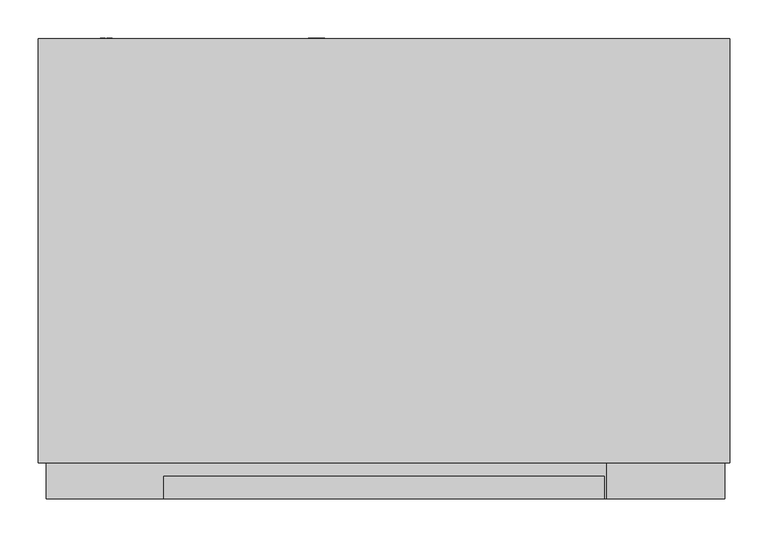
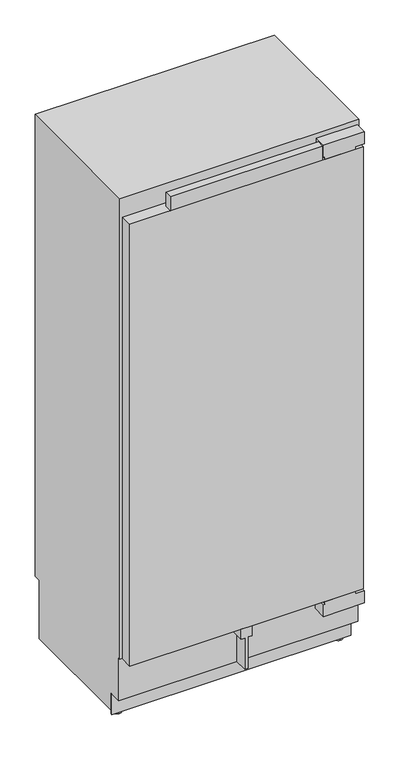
"""IFC4 building model written with IfcOpenShell, lengths in millimetres: proxy geometry, 11503360_USA_F2902Vi : 37290201_USA_11503360_F2902Vi."""

from ifc_helpers import new_model, si_unit, point, frame, frame_2d, origin, place, context, project, spatial, polyline, circle_curve, trimmed, segment, composite_curve, outline, extrude, source, transform, mapped, element, save
from ifc_brep_helpers import plane_surface, cylinder_surface, advanced_brep


def specialty_equipment_eeb248f6(model_context):
    return source(origin(), model_context, "Body", "SolidModel", [
        extrude(outline(polyline([(-443.0, 47.0), (443.0, 47.0), (443.0, 0.0), (-443.0, 0.0), (-443.0, 47.0)])), frame((0.0, 0.0, 265.0), z_axis=(0.0, 0.0, 1.0), x_axis=(1.0, 0.0, 0.0)), (0.0, 0.0, 1.0), 1771.0),
        extrude(outline(polyline([(-289.0, 29.0), (289.0, 29.0), (289.0, 0.0), (-289.0, 0.0), (-289.0, 29.0)])), frame((0.0, 0.0, 2036.0), z_axis=(0.0, 0.0, 1.0), x_axis=(1.0, 0.0, 0.0)), (0.0, 0.0, 1.0), 56.0),
        extrude(outline(polyline([(265.0, 21.0), (265.0, 0.0), (265.0, -21.0), (224.0, -21.0), (224.0, -6.5), (99.0, -6.5), (99.0, 0.0), (99.0, 6.5), (224.0, 6.5), (224.0, 21.0), (265.0, 21.0)])), frame((0.0, 0.0, 0.0), z_axis=(0.0, 1.0, 0.0), x_axis=(0.0, 0.0, 1.0)), (0.0, 0.0, 1.0), 54.0),
        extrude(outline(polyline([(519.0, 1998.0), (519.0, 1791.0), (450.0, 1791.0), (422.0, 1867.0), (201.7448904, 1867.0), (157.0, 1939.0), (87.0, 1949.0), (87.0, 1998.0), (519.0, 1998.0)])), frame((-408.0, 0.0, 0.0), z_axis=(1.0, 0.0, 0.0), x_axis=(0.0, 1.0, 0.0)), (0.0, 0.0, 1.0), 816.0),
        extrude(outline(polyline([(196.9886114, 1875.0), (195.809433, 1875.0), (158.6921935, 1934.4), (159.8713719, 1934.4), (196.9886114, 1875.0)])), frame((-69.0, 0.0, 0.0), z_axis=(1.0, 0.0, 0.0), x_axis=(0.0, 1.0, 0.0)), (0.0, 0.0, 1.0), 138.0),
        extrude(outline(polyline([(46.0510837, -87.101717), (37.4134902, -89.1745179), (46.0453554, -91.6868463), (46.0453554, -93.5601414), (37.4089549, -96.0799633), (46.0493903, -98.1581876), (46.0493903, -99.4649805), (36.0005458, -96.7156324), (36.0005458, -95.372208), (44.8261022, -92.6342221), (35.9987467, -90.0620509), (35.9987287, -88.5451466), (46.0510837, -85.800191), (46.0510837, -87.101717)])), frame((0.0, 604.0, 0.0), z_axis=(0.0, 1.0, 0.0), x_axis=(0.0, 0.0, 1.0)), (0.0, 0.0, 1.0), 1.0),
        extrude(outline(polyline([(46.0485238, -78.7401503), (41.1363122, -78.7401503), (46.0468162, -83.884602), (46.0468162, -85.6328316), (41.9156889, -81.3260313), (36.000035, -85.8032231), (36.000035, -84.2795519), (41.0742849, -80.4391666), (39.4525334, -78.7395503), (35.9999292, -78.7395503), (35.9999292, -77.4795491), (46.0485238, -77.4795491), (46.0485238, -78.7401503)])), frame((0.0, 604.0, 0.0), z_axis=(0.0, 1.0, 0.0), x_axis=(0.0, 0.0, 1.0)), (0.0, 0.0, 1.0), 1.0),
        extrude(outline(composite_curve([segment(trimmed(circle_curve(frame_2d((41.0, -88.0)), 7.5), [point((33.5, -88.0))], [point((48.5, -88.0))], False, "CARTESIAN"), True, "CONTINUOUS"), segment(trimmed(circle_curve(frame_2d((41.0, -88.0)), 7.5), [point((48.5, -88.0))], [point((33.5, -88.0))], False, "CARTESIAN"), True, "CONTINUOUS")], self_intersect=False)), frame((0.0, 577.0, 0.0), z_axis=(0.0, 1.0, 0.0), x_axis=(0.0, 0.0, 1.0)), (0.0, 0.0, 1.0), 27.0),
        extrude(outline(polyline([(2095.0, 447.5), (2095.0, 292.5), (2047.0, 292.5), (2047.0, 298.5), (2036.5, 298.5), (2036.5, 413.5), (2047.0, 413.5), (2047.0, 447.5), (2095.0, 447.5)])), frame((0.0, 0.0, 0.0), z_axis=(0.0, 1.0, 0.0), x_axis=(0.0, 0.0, 1.0)), (0.0, 0.0, 1.0), 47.0),
        extrude(outline(polyline([(254.0, 292.5), (206.0, 292.5), (206.0, 447.5), (254.0, 447.5), (254.0, 413.5), (264.0, 413.5), (264.0, 298.5), (254.0, 298.5), (254.0, 292.5)])), frame((0.0, 0.0, 0.0), z_axis=(0.0, 1.0, 0.0), x_axis=(0.0, 0.0, 1.0)), (0.0, 0.0, 1.0), 54.0),
        extrude(outline(polyline([(99.0373308, -363.7645771), (97.7615342, -363.7645771), (97.7615342, -357.8195541), (94.7968516, -357.8195541), (94.7968516, -363.469579), (93.5246295, -363.469579), (93.5246295, -357.8415693), (90.2570046, -357.8415693), (90.2570046, -363.9619689), (88.9546219, -363.9619689), (88.9546219, -356.5443524), (99.0373308, -356.5443524), (99.0373308, -363.7645771)])), frame((0.0, 604.0, 0.0), z_axis=(0.0, 1.0, 0.0), x_axis=(0.0, 0.0, 1.0)), (0.0, 0.0, 1.0), 1.0),
        extrude(outline(polyline([(99.0458, -367.0619704), (90.2663944, -367.0619704), (90.2663944, -372.1145879), (89.0134802, -372.1145879), (89.0134802, -365.8423809), (99.0458, -365.8423809), (99.0458, -367.0619704)])), frame((0.0, 604.0, 0.0), z_axis=(0.0, 1.0, 0.0), x_axis=(0.0, 0.0, 1.0)), (0.0, 0.0, 1.0), 1.0),
        extrude(outline(composite_curve([segment(trimmed(circle_curve(frame_2d((94.0, -364.0)), 7.5), [point((86.5, -364.0))], [point((101.5, -364.0))], False, "CARTESIAN"), True, "CONTINUOUS"), segment(trimmed(circle_curve(frame_2d((94.0, -364.0)), 7.5), [point((101.5, -364.0))], [point((86.5, -364.0))], False, "CARTESIAN"), True, "CONTINUOUS")], self_intersect=False)), frame((0.0, 577.0, 0.0), z_axis=(0.0, 1.0, 0.0), x_axis=(0.0, 0.0, 1.0)), (0.0, 0.0, 1.0), 27.0),
        extrude(outline(polyline([(-454.0, 104.0), (454.0, 104.0), (454.0, 99.0), (-454.0, 99.0), (-454.0, 104.0)])), frame((0.0, 0.0, 14.0), z_axis=(0.0, 0.0, 1.0), x_axis=(1.0, 0.0, 0.0)), (0.0, 0.0, 1.0), 83.0),
        advanced_brep(
        [(-420.0, 139.0, 0.0), (-420.0, 109.0, 0.0), (-420.0, 139.0, 7.0), (-420.0, 109.0, 7.0), (-420.0, 128.7, 7.0), (-420.0, 119.3, 7.0), (-420.0, 128.7, 28.0), (-420.0, 119.3, 28.0)],
        [
            (0, 1, circle_curve(frame((-420.0, 124.0, 0.0), z_axis=(0.0, 0.0, -1.0), x_axis=(1.0, 0.0, 0.0)), 15.0)),
            (1, 0, circle_curve(frame((-420.0, 124.0, 0.0), z_axis=(0.0, 0.0, -1.0), x_axis=(1.0, 0.0, 0.0)), 15.0)),
            (2, 3, circle_curve(frame((-420.0, 124.0, 7.0), z_axis=(0.0, 0.0, 1.0), x_axis=(1.0, 0.0, 0.0)), 15.0)),
            (3, 2, circle_curve(frame((-420.0, 124.0, 7.0), z_axis=(0.0, 0.0, 1.0), x_axis=(1.0, 0.0, 0.0)), 15.0)),
            (4, 5, circle_curve(frame((-420.0, 124.0, 7.0), z_axis=(0.0, 0.0, -1.0), x_axis=(0.0, -1.0, 0.0)), 4.7)),
            (5, 4, circle_curve(frame((-420.0, 124.0, 7.0), z_axis=(0.0, 0.0, -1.0), x_axis=(0.0, -1.0, 0.0)), 4.7)),
            (0, 2),
            (3, 1),
            (6, 7, circle_curve(frame((-420.0, 124.0, 28.0), z_axis=(0.0, 0.0, 1.0), x_axis=(0.0, -1.0, 0.0)), 4.7)),
            (7, 6, circle_curve(frame((-420.0, 124.0, 28.0), z_axis=(0.0, 0.0, 1.0), x_axis=(0.0, -1.0, 0.0)), 4.7)),
            (7, 5),
            (4, 6),
        ],
        [
            plane_surface(frame((-405.0, 124.0, 0.0), z_axis=(0.0, 0.0, -1.0), x_axis=(0.0, -1.0, 0.0))),
            plane_surface(frame((-405.0, 124.0, 7.0), z_axis=(0.0, 0.0, 1.0), x_axis=(0.0, 1.0, 0.0))),
            cylinder_surface(frame((-420.0, 124.0, 7.0), z_axis=(0.0, 0.0, -1.0), x_axis=(1.0, 0.0, 0.0)), 15.0),
            plane_surface(frame((-420.0, 119.3, 28.0), z_axis=(0.0, 0.0, 1.0), x_axis=(1.0, 0.0, 0.0))),
            cylinder_surface(frame((-420.0, 124.0, 28.0), z_axis=(0.0, 0.0, -1.0), x_axis=(0.0, -1.0, 0.0)), 4.7),
        ],
        [
            (0, [[1, 2]]),
            (1, [[3, 4], [5, 6]]),
            (2, [[-1, 7, -4, 8]]),
            (2, [[-2, -8, -3, -7]]),
            (3, [[9, 10]]),
            (4, [[-10, 11, -5, 12]]),
            (4, [[-9, -12, -6, -11]]),
        ],
    ),
        advanced_brep(
        [(420.0, 139.0, 0.0), (420.0, 109.0, 0.0), (420.0, 139.0, 7.0), (420.0, 109.0, 7.0), (420.0, 128.7, 7.0), (420.0, 119.3, 7.0), (420.0, 128.7, 28.0), (420.0, 119.3, 28.0)],
        [
            (0, 1, circle_curve(frame((420.0, 124.0, 0.0), z_axis=(0.0, 0.0, -1.0), x_axis=(1.0, 0.0, 0.0)), 15.0)),
            (1, 0, circle_curve(frame((420.0, 124.0, 0.0), z_axis=(0.0, 0.0, -1.0), x_axis=(1.0, 0.0, 0.0)), 15.0)),
            (2, 3, circle_curve(frame((420.0, 124.0, 7.0), z_axis=(0.0, 0.0, 1.0), x_axis=(1.0, 0.0, 0.0)), 15.0)),
            (3, 2, circle_curve(frame((420.0, 124.0, 7.0), z_axis=(0.0, 0.0, 1.0), x_axis=(1.0, 0.0, 0.0)), 15.0)),
            (4, 5, circle_curve(frame((420.0, 124.0, 7.0), z_axis=(0.0, 0.0, -1.0), x_axis=(0.0, -1.0, 0.0)), 4.7)),
            (5, 4, circle_curve(frame((420.0, 124.0, 7.0), z_axis=(0.0, 0.0, -1.0), x_axis=(0.0, -1.0, 0.0)), 4.7)),
            (0, 2),
            (3, 1),
            (6, 7, circle_curve(frame((420.0, 124.0, 28.0), z_axis=(0.0, 0.0, 1.0), x_axis=(0.0, -1.0, 0.0)), 4.7)),
            (7, 6, circle_curve(frame((420.0, 124.0, 28.0), z_axis=(0.0, 0.0, 1.0), x_axis=(0.0, -1.0, 0.0)), 4.7)),
            (7, 5),
            (4, 6),
        ],
        [
            plane_surface(frame((-405.0, 124.0, 0.0), z_axis=(0.0, 0.0, -1.0), x_axis=(0.0, -1.0, 0.0))),
            plane_surface(frame((-405.0, 124.0, 7.0), z_axis=(0.0, 0.0, 1.0), x_axis=(0.0, 1.0, 0.0))),
            cylinder_surface(frame((420.0, 124.0, 7.0), z_axis=(0.0, 0.0, -1.0), x_axis=(1.0, 0.0, 0.0)), 15.0),
            plane_surface(frame((-420.0, 119.3, 28.0), z_axis=(0.0, 0.0, 1.0), x_axis=(1.0, 0.0, 0.0))),
            cylinder_surface(frame((420.0, 124.0, 28.0), z_axis=(0.0, 0.0, -1.0), x_axis=(0.0, -1.0, 0.0)), 4.7),
        ],
        [
            (0, [[1, 2]]),
            (1, [[3, 4], [5, 6]]),
            (2, [[-1, 7, -4, 8]]),
            (2, [[-2, -8, -3, -7]]),
            (3, [[9, 10]]),
            (4, [[-10, 11, -5, 12]]),
            (4, [[-9, -12, -6, -11]]),
        ],
    ),
        advanced_brep(
        [(454.0, 47.0, 2114.0), (454.0, 47.0, 267.0), (454.0, 54.0, 267.0), (454.0, 54.0, 97.0), (454.0, 104.0, 97.0), (454.0, 104.0, 28.0), (454.0, 577.0, 28.0), (454.0, 577.0, 263.0), (454.0, 604.0, 263.0), (454.0, 604.0, 2114.0), (-454.0, 47.0, 2114.0), (-454.0, 604.0, 2114.0), (-454.0, 604.0, 263.0), (-454.0, 577.0, 263.0), (-454.0, 577.0, 28.0), (-454.0, 104.0, 28.0), (-454.0, 104.0, 97.0), (-454.0, 54.0, 97.0), (-454.0, 54.0, 267.0), (-454.0, 47.0, 267.0), (394.0, 577.0, 28.0), (394.0, 577.0, 14.0), (-394.0, 577.0, 14.0), (-394.0, 577.0, 28.0), (394.0, 104.0, 14.0), (-394.0, 104.0, 14.0), (-394.0, 104.0, 28.0), (394.0, 104.0, 28.0), (408.0, 47.0, 1998.0), (408.0, 47.0, 343.0), (-408.0, 47.0, 343.0), (-408.0, 47.0, 1998.0), (408.0, 519.0, 1998.0), (-408.0, 519.0, 1998.0), (-408.0, 519.0, 343.0), (408.0, 519.0, 343.0), (-412.5, 202.8193473, 28.0), (-431.5, 202.8193473, 28.0), (-431.5, 153.1806527, 28.0), (-412.5, 153.1806527, 28.0), (-432.0, 525.8193473, 28.0), (-432.0, 476.1806527, 28.0), (-416.0, 476.1806527, 28.0), (-416.0, 525.8193473, 28.0), (431.5, 153.1806527, 28.0), (431.5, 202.8193473, 28.0), (412.5, 202.8193473, 28.0), (412.5, 153.1806527, 28.0), (416.0, 525.8193473, 28.0), (416.0, 476.1806527, 28.0), (432.0, 476.1806527, 28.0), (432.0, 525.8193473, 28.0), (-412.5, 203.0, 25.0), (-412.5, 153.0, 25.0), (-431.5, 153.0, 25.0), (-431.5, 203.0, 25.0), (-412.5, 178.0, 25.0), (-431.5, 178.0, 25.0), (431.5, 178.0, 25.0), (431.5, 153.0, 25.0), (431.5, 203.0, 25.0), (412.5, 203.0, 25.0), (412.5, 153.0, 25.0), (412.5, 178.0, 25.0), (-432.0, 526.0, 25.0), (-432.0, 476.0, 25.0), (-432.0, 501.0, 25.0), (-416.0, 526.0, 25.0), (-416.0, 476.0, 25.0), (-416.0, 501.0, 25.0), (416.0, 526.0, 25.0), (416.0, 476.0, 25.0), (416.0, 501.0, 25.0), (432.0, 526.0, 25.0), (432.0, 476.0, 25.0), (432.0, 501.0, 25.0)],
        [
            (0, 1),
            (1, 2),
            (2, 3),
            (3, 4),
            (4, 5),
            (5, 6),
            (6, 7),
            (7, 8),
            (8, 9),
            (9, 0),
            (10, 11),
            (11, 12),
            (12, 13),
            (13, 14),
            (14, 15),
            (15, 16),
            (16, 17),
            (17, 18),
            (18, 19),
            (19, 10),
            (9, 11),
            (10, 0),
            (8, 12),
            (7, 13),
            (6, 20),
            (20, 21),
            (21, 22),
            (22, 23),
            (23, 14),
            (21, 24),
            (24, 25),
            (25, 22),
            (4, 16),
            (15, 26),
            (26, 25),
            (24, 27),
            (27, 5),
            (3, 17),
            (2, 18),
            (1, 19),
            (28, 29),
            (29, 30),
            (30, 31),
            (31, 28),
            (32, 33),
            (33, 34),
            (34, 35),
            (35, 32),
            (35, 29),
            (28, 32),
            (34, 30),
            (33, 31),
            (23, 26),
            (36, 37),
            (37, 38),
            (38, 39),
            (39, 36),
            (40, 41),
            (41, 42),
            (42, 43),
            (43, 40),
            (27, 20),
            (44, 45),
            (45, 46),
            (46, 47),
            (47, 44),
            (48, 49),
            (49, 50),
            (50, 51),
            (51, 48),
            (52, 53, circle_curve(frame((-412.5, 178.0, 25.0), z_axis=(-1.0, 0.0, 0.0), x_axis=(0.0, -1.0, 0.0)), 25.0)),
            (53, 54),
            (54, 55, circle_curve(frame((-431.5, 178.0, 25.0), z_axis=(1.0, 0.0, 0.0), x_axis=(0.0, -1.0, 0.0)), 25.0)),
            (55, 52),
            (53, 39, circle_curve(frame((-412.5, 178.0, 25.0), z_axis=(-1.0, 0.0, 0.0), x_axis=(0.0, -1.0, 0.0)), 25.0)),
            (38, 54, circle_curve(frame((-431.5, 178.0, 25.0), z_axis=(1.0, 0.0, 0.0), x_axis=(0.0, -1.0, 0.0)), 25.0)),
            (55, 37, circle_curve(frame((-431.5, 178.0, 25.0), z_axis=(1.0, 0.0, 0.0), x_axis=(0.0, -1.0, 0.0)), 25.0)),
            (36, 52, circle_curve(frame((-412.5, 178.0, 25.0), z_axis=(-1.0, 0.0, 0.0), x_axis=(0.0, -1.0, 0.0)), 25.0)),
            (52, 56),
            (56, 53),
            (54, 57),
            (57, 55),
            (58, 59),
            (59, 60, circle_curve(frame((431.5, 178.0, 25.0), z_axis=(1.0, 0.0, 0.0), x_axis=(0.0, -1.0, 0.0)), 25.0)),
            (60, 58),
            (60, 45, circle_curve(frame((431.5, 178.0, 25.0), z_axis=(1.0, 0.0, 0.0), x_axis=(0.0, -1.0, 0.0)), 25.0)),
            (44, 59, circle_curve(frame((431.5, 178.0, 25.0), z_axis=(1.0, 0.0, 0.0), x_axis=(0.0, -1.0, 0.0)), 25.0)),
            (61, 62, circle_curve(frame((412.5, 178.0, 25.0), z_axis=(-1.0, 0.0, 0.0), x_axis=(0.0, -1.0, 0.0)), 25.0)),
            (62, 63),
            (63, 61),
            (62, 47, circle_curve(frame((412.5, 178.0, 25.0), z_axis=(-1.0, 0.0, 0.0), x_axis=(0.0, -1.0, 0.0)), 25.0)),
            (46, 61, circle_curve(frame((412.5, 178.0, 25.0), z_axis=(-1.0, 0.0, 0.0), x_axis=(0.0, -1.0, 0.0)), 25.0)),
            (64, 65, circle_curve(frame((-432.0, 501.0, 25.0), z_axis=(-1.0, 0.0, 0.0), x_axis=(0.0, -1.0, 0.0)), 25.0)),
            (65, 66),
            (66, 64),
            (65, 41, circle_curve(frame((-432.0, 501.0, 25.0), z_axis=(-1.0, 0.0, 0.0), x_axis=(0.0, -1.0, 0.0)), 25.0)),
            (40, 64, circle_curve(frame((-432.0, 501.0, 25.0), z_axis=(-1.0, 0.0, 0.0), x_axis=(0.0, -1.0, 0.0)), 25.0)),
            (64, 67),
            (67, 68, circle_curve(frame((-416.0, 501.0, 25.0), z_axis=(-1.0, 0.0, 0.0), x_axis=(0.0, -1.0, 0.0)), 25.0)),
            (68, 65),
            (43, 67, circle_curve(frame((-416.0, 501.0, 25.0), z_axis=(-1.0, 0.0, 0.0), x_axis=(0.0, -1.0, 0.0)), 25.0)),
            (68, 42, circle_curve(frame((-416.0, 501.0, 25.0), z_axis=(-1.0, 0.0, 0.0), x_axis=(0.0, -1.0, 0.0)), 25.0)),
            (67, 69),
            (69, 68),
            (70, 71, circle_curve(frame((416.0, 501.0, 25.0), z_axis=(-1.0, 0.0, 0.0), x_axis=(0.0, -1.0, 0.0)), 25.0)),
            (71, 72),
            (72, 70),
            (71, 49, circle_curve(frame((416.0, 501.0, 25.0), z_axis=(-1.0, 0.0, 0.0), x_axis=(0.0, -1.0, 0.0)), 25.0)),
            (48, 70, circle_curve(frame((416.0, 501.0, 25.0), z_axis=(-1.0, 0.0, 0.0), x_axis=(0.0, -1.0, 0.0)), 25.0)),
            (70, 73),
            (73, 74, circle_curve(frame((432.0, 501.0, 25.0), z_axis=(-1.0, 0.0, 0.0), x_axis=(0.0, -1.0, 0.0)), 25.0)),
            (74, 71),
            (51, 73, circle_curve(frame((432.0, 501.0, 25.0), z_axis=(-1.0, 0.0, 0.0), x_axis=(0.0, -1.0, 0.0)), 25.0)),
            (74, 50, circle_curve(frame((432.0, 501.0, 25.0), z_axis=(-1.0, 0.0, 0.0), x_axis=(0.0, -1.0, 0.0)), 25.0)),
            (73, 75),
            (75, 74),
            (59, 62),
            (61, 60),
        ],
        [
            plane_surface(frame((454.0, 604.0, 2114.0), z_axis=(1.0, 0.0, 0.0), x_axis=(0.0, -1.0, 0.0))),
            plane_surface(frame((-454.0, 604.0, 2114.0), z_axis=(-1.0, 0.0, 0.0), x_axis=(0.0, 1.0, 0.0))),
            plane_surface(frame((-454.0, 47.0, 2114.0), z_axis=(0.0, 0.0, 1.0), x_axis=(1.0, 0.0, 0.0))),
            plane_surface(frame((-454.0, 604.0, 2114.0), z_axis=(0.0, 1.0, 0.0), x_axis=(1.0, 0.0, 0.0))),
            plane_surface(frame((-454.0, 604.0, 263.0), z_axis=(0.0, 0.0, -1.0), x_axis=(1.0, 0.0, 0.0))),
            plane_surface(frame((-454.0, 577.0, 263.0), z_axis=(0.0, 1.0, 0.0), x_axis=(1.0, 0.0, 0.0))),
            plane_surface(frame((-454.0, 577.0, 14.0), z_axis=(0.0, 0.0, -1.0), x_axis=(1.0, 0.0, 0.0))),
            plane_surface(frame((-454.0, 104.0, 14.0), z_axis=(0.0, -1.0, 0.0), x_axis=(1.0, 0.0, 0.0))),
            plane_surface(frame((-454.0, 104.0, 97.0), z_axis=(0.0, 0.0, -1.0), x_axis=(1.0, 0.0, 0.0))),
            plane_surface(frame((-454.0, 54.0, 97.0), z_axis=(0.0, -1.0, 0.0), x_axis=(1.0, 0.0, 0.0))),
            plane_surface(frame((-454.0, 54.0, 267.0), z_axis=(0.0, 0.0, -1.0), x_axis=(1.0, 0.0, 0.0))),
            plane_surface(frame((-454.0, 47.0, 267.0), z_axis=(0.0, -1.0, 0.0), x_axis=(1.0, 0.0, 0.0))),
            plane_surface(frame((408.0, 519.0, 1998.0), z_axis=(0.0, -1.0, 0.0), x_axis=(0.0, 0.0, -1.0))),
            plane_surface(frame((408.0, 519.0, 1998.0), z_axis=(-1.0, 0.0, 0.0), x_axis=(0.0, -1.0, 0.0))),
            plane_surface(frame((408.0, 519.0, 343.0), z_axis=(0.0, 0.0, 1.0), x_axis=(0.0, -1.0, 0.0))),
            plane_surface(frame((-408.0, 519.0, 343.0), z_axis=(1.0, 0.0, 0.0), x_axis=(0.0, -1.0, 0.0))),
            plane_surface(frame((-408.0, 519.0, 1998.0), z_axis=(0.0, 0.0, -1.0), x_axis=(0.0, -1.0, 0.0))),
            plane_surface(frame((-454.0, 604.0, 28.0), z_axis=(0.0, 0.0, -1.0), x_axis=(-1.0, 0.0, 0.0))),
            plane_surface(frame((-394.0, 104.0, 28.0), z_axis=(-1.0, 0.0, 0.0), x_axis=(0.0, 0.0, -1.0))),
            plane_surface(frame((394.0, 604.0, 28.0), z_axis=(1.0, 0.0, 0.0), x_axis=(0.0, 0.0, -1.0))),
            cylinder_surface(frame((-546.6988927, 178.0, 25.0), z_axis=(1.0, 0.0, 0.0), x_axis=(0.0, -1.0, 0.0)), 25.0),
            plane_surface(frame((-412.5, 178.0, 25.0), z_axis=(1.0, 0.0, 0.0), x_axis=(0.0, -1.0, 0.0))),
            plane_surface(frame((-431.5, 178.0, 25.0), z_axis=(-1.0, 0.0, 0.0), x_axis=(0.0, -1.0, 0.0))),
            plane_surface(frame((431.5, 178.0, 25.0), z_axis=(1.0, 0.0, 0.0), x_axis=(0.0, -1.0, 0.0))),
            plane_surface(frame((412.5, 178.0, 25.0), z_axis=(-1.0, 0.0, 0.0), x_axis=(0.0, -1.0, 0.0))),
            plane_surface(frame((-432.0, 501.0, 25.0), z_axis=(-1.0, 0.0, 0.0), x_axis=(0.0, -1.0, 0.0))),
            cylinder_surface(frame((-546.6988927, 501.0, 25.0), z_axis=(1.0, 0.0, 0.0), x_axis=(0.0, -1.0, 0.0)), 25.0),
            plane_surface(frame((-416.0, 501.0, 25.0), z_axis=(1.0, 0.0, 0.0), x_axis=(0.0, -1.0, 0.0))),
            plane_surface(frame((416.0, 501.0, 25.0), z_axis=(-1.0, 0.0, 0.0), x_axis=(0.0, -1.0, 0.0))),
            plane_surface(frame((432.0, 501.0, 25.0), z_axis=(1.0, 0.0, 0.0), x_axis=(0.0, -1.0, 0.0))),
        ],
        [
            (0, [[1, 2, 3, 4, 5, 6, 7, 8, 9, 10]]),
            (1, [[11, 12, 13, 14, 15, 16, 17, 18, 19, 20]]),
            (2, [[-10, 21, -11, 22]]),
            (3, [[-9, 23, -12, -21]]),
            (4, [[-8, 24, -13, -23]]),
            (5, [[-24, -7, 25, 26, 27, 28, 29, -14]]),
            (6, [[-27, 30, 31, 32]]),
            (7, [[33, -16, 34, 35, -31, 36, 37, -5]]),
            (8, [[-4, 38, -17, -33]]),
            (9, [[-3, 39, -18, -38]]),
            (10, [[-2, 40, -19, -39]]),
            (11, [[-1, -22, -20, -40], [41, 42, 43, 44]]),
            (12, [[45, 46, 47, 48]]),
            (13, [[-48, 49, -41, 50]]),
            (14, [[-47, 51, -42, -49]]),
            (15, [[-46, 52, -43, -51]]),
            (16, [[-45, -50, -44, -52]]),
            (17, [[53, -34, -15, -29], [54, 55, 56, 57], [58, 59, 60, 61]]),
            (17, [[62, -25, -6, -37], [63, 64, 65, 66], [67, 68, 69, 70]]),
            (18, [[-53, -28, -32, -35]]),
            (19, [[-62, -36, -30, -26]]),
            (20, [[71, 72, 73, 74]]),
            (20, [[-72, 75, -56, 76]]),
            (20, [[-74, 77, -54, 78]]),
            (21, [[-71, 79, 80]]),
            (21, [[-80, -79, -78, -57, -75]]),
            (22, [[-73, 81, 82]]),
            (22, [[-81, -76, -55, -77, -82]]),
            (23, [[83, 84, 85]]),
            (23, [[-83, -85, 86, -63, 87]]),
            (24, [[88, 89, 90]]),
            (24, [[-89, 91, -65, 92, -90]]),
            (25, [[93, 94, 95]]),
            (25, [[-94, 96, -58, 97, -95]]),
            (26, [[-93, 98, 99, 100]]),
            (26, [[-98, -97, -61, 101]]),
            (26, [[-100, 102, -59, -96]]),
            (27, [[-99, 103, 104]]),
            (27, [[-104, -103, -101, -60, -102]]),
            (28, [[105, 106, 107]]),
            (28, [[-106, 108, -67, 109, -107]]),
            (26, [[-105, 110, 111, 112]]),
            (26, [[-110, -109, -70, 113]]),
            (26, [[-112, 114, -68, -108]]),
            (29, [[-111, 115, 116]]),
            (29, [[-116, -115, -113, -69, -114]]),
            (20, [[-84, 117, -88, 118]]),
            (20, [[-117, -87, -66, -91]]),
            (20, [[-118, -92, -64, -86]]),
        ],
    ),
    ])


if __name__ == "__main__":
    model = new_model("IFC4")
    model_context = context("Model", 3, world=origin())
    ifc_project = project(units=[si_unit("LENGTHUNIT", "METRE", prefix="MILLI")], contexts=[model_context])
    site = spatial("IfcSite", under=ifc_project)
    building = spatial("IfcBuilding", under=site)
    placement = place(None, origin())
    specialty_equipment_shape = specialty_equipment_eeb248f6(model_context)
    element("IfcBuildingElementProxy", 1, Name="11503360_USA_F2902Vi : 37290201_USA_11503360_F2902Vi", ObjectType="11503360_USA_F2902Vi : 37290201_USA_11503360_F2902Vi", at=placement, inside=building, context=model_context, shape_type="MappedRepresentation", body=[
        mapped(specialty_equipment_shape, transform((0.0, 0.0, 0.0), x_axis=(1.0, 0.0, 0.0), y_axis=(0.0, 1.0, 0.0), z_axis=(0.0, 0.0, 1.0))),
    ])
    save(model, "model.ifc")
